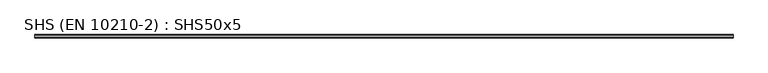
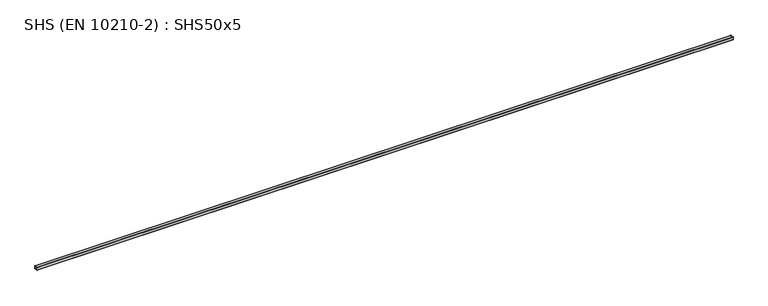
"""IFC4 building model written with IfcOpenShell, lengths in millimetres: beam geometry, SHS (EN 10210-2) : SHS50x5."""

from ifc_helpers import new_model, si_unit, point, frame, frame_2d, origin, place, context, project, spatial, polyline, circle_curve, trimmed, segment, composite_curve, outline, extrude, source, transform, mapped, element, save


def shs_en_10210_2_shs50x5_15f41986(model_context):
    return source(origin(), model_context, "Body", "SweptSolid", [
        extrude(outline(composite_curve([segment(polyline([(25.0, 17.5), (25.0, -17.5)]), True, "CONTINUOUS"), segment(trimmed(circle_curve(frame_2d((17.5, -17.5)), 7.5), [point((25.0, -17.5))], [point((17.5, -25.0))], False, "CARTESIAN"), True, "CONTINUOUS"), segment(polyline([(17.5, -25.0), (-17.5, -25.0)]), True, "CONTINUOUS"), segment(trimmed(circle_curve(frame_2d((-17.5, -17.5)), 7.5), [point((-17.5, -25.0))], [point((-25.0, -17.5))], False, "CARTESIAN"), True, "CONTINUOUS"), segment(polyline([(-25.0, -17.5), (-25.0, 17.5)]), True, "CONTINUOUS"), segment(trimmed(circle_curve(frame_2d((-17.5, 17.5)), 7.5), [point((-25.0, 17.5))], [point((-17.5, 25.0))], False, "CARTESIAN"), True, "CONTINUOUS"), segment(polyline([(-17.5, 25.0), (17.5, 25.0)]), True, "CONTINUOUS"), segment(trimmed(circle_curve(frame_2d((17.5, 17.5)), 7.5), [point((17.5, 25.0))], [point((25.0, 17.5))], False, "CARTESIAN"), True, "CONTINUOUS")], self_intersect=False), holes=[composite_curve([segment(trimmed(circle_curve(frame_2d((-15.0, 15.0)), 5.0), [point((-15.0, 20.0))], [point((-20.0, 15.0))], True, "CARTESIAN"), True, "CONTINUOUS"), segment(polyline([(-20.0, 15.0), (-20.0, -15.0)]), True, "CONTINUOUS"), segment(trimmed(circle_curve(frame_2d((-15.0, -15.0)), 5.0), [point((-20.0, -15.0))], [point((-15.0, -20.0))], True, "CARTESIAN"), True, "CONTINUOUS"), segment(polyline([(-15.0, -20.0), (15.0, -20.0)]), True, "CONTINUOUS"), segment(trimmed(circle_curve(frame_2d((15.0, -15.0)), 5.0), [point((15.0, -20.0))], [point((20.0, -15.0))], True, "CARTESIAN"), True, "CONTINUOUS"), segment(polyline([(20.0, -15.0), (20.0, 15.0)]), True, "CONTINUOUS"), segment(trimmed(circle_curve(frame_2d((15.0, 15.0)), 5.0), [point((20.0, 15.0))], [point((15.0, 20.0))], True, "CARTESIAN"), True, "CONTINUOUS"), segment(polyline([(15.0, 20.0), (-15.0, 20.0)]), True, "CONTINUOUS")], self_intersect=False)]), frame((-5072.3, 0.0, 0.0), z_axis=(1.0, 0.0, 0.0), x_axis=(0.0, 1.0, 0.0)), (0.0, 0.0, 1.0), 10144.6),
    ])


if __name__ == "__main__":
    model = new_model("IFC4")
    model_context = context("Model", 3, world=origin())
    ifc_project = project(units=[si_unit("LENGTHUNIT", "METRE", prefix="MILLI")], contexts=[model_context])
    site = spatial("IfcSite", under=ifc_project)
    building = spatial("IfcBuilding", under=site)
    placement = place(None, origin())
    shs_en_10210_2_shs50x5_shape = shs_en_10210_2_shs50x5_15f41986(model_context)
    element("IfcBeam", 1, ObjectType="SHS (EN 10210-2) : SHS50x5", at=placement, inside=building, context=model_context, shape_type="MappedRepresentation", body=[
        mapped(shs_en_10210_2_shs50x5_shape, transform((0.0, 0.0, 0.0), x_axis=(1.0, 0.0, 0.0), y_axis=(0.0, 1.0, 0.0), z_axis=(0.0, 0.0, 1.0))),
    ])
    save(model, "model.ifc")
